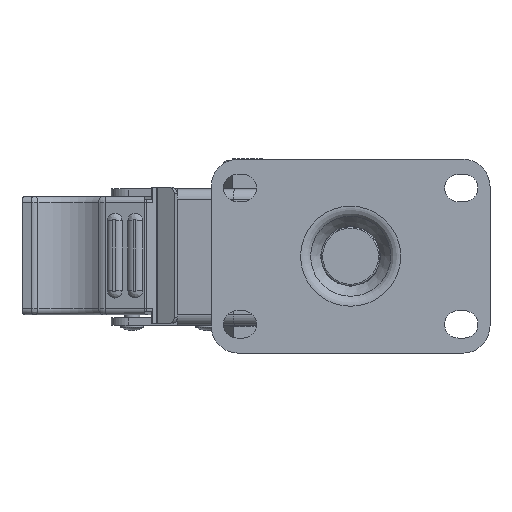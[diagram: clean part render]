
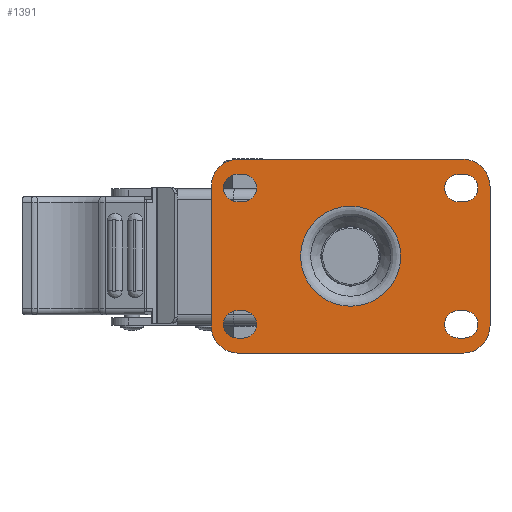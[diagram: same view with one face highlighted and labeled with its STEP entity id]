
A CAD part, top view. The second image highlights one B-rep face of the part: STEP entity #1391.
In plain terms, the highlighted planar face has unit normal (0, 0, 1).
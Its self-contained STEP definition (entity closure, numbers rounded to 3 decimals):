
#1391=ADVANCED_FACE('',(#3496,#3497,#3498,#3499,#3500,#3501),#2309,.F.);
#2309=PLANE('',#17312);
#3496=FACE_BOUND('',#3939,.T.);
#3497=FACE_BOUND('',#3940,.T.);
#3498=FACE_BOUND('',#3941,.T.);
#3499=FACE_BOUND('',#3942,.T.);
#3500=FACE_BOUND('',#3943,.T.);
#3501=FACE_BOUND('',#3944,.T.);
#3939=EDGE_LOOP('',(#7252));
#3940=EDGE_LOOP('',(#7253,#7254,#7255,#7256));
#3941=EDGE_LOOP('',(#7257,#7258,#7259,#7260));
#3942=EDGE_LOOP('',(#7261,#7262,#7263,#7264));
#3943=EDGE_LOOP('',(#7265,#7266,#7267,#7268));
#3944=EDGE_LOOP('',(#7269,#7270,#7271,#7272,#7273,#7274,#7275,#7276,#7277,
#7278));
#5109=LINE('',#25100,#6065);
#5110=LINE('',#25105,#6066);
#5111=LINE('',#25108,#6067);
#5112=LINE('',#25113,#6068);
#5113=LINE('',#25116,#6069);
#5114=LINE('',#25121,#6070);
#5115=LINE('',#25124,#6071);
#5116=LINE('',#25129,#6072);
#5117=LINE('',#25132,#6073);
#5118=LINE('',#25135,#6074);
#5119=LINE('',#25139,#6075);
#5120=LINE('',#25143,#6076);
#5121=LINE('',#25145,#6077);
#5122=LINE('',#25149,#6078);
#6065=VECTOR('',#19199,1.);
#6066=VECTOR('',#19202,1.);
#6067=VECTOR('',#19205,1.);
#6068=VECTOR('',#19208,1.);
#6069=VECTOR('',#19211,1.);
#6070=VECTOR('',#19214,1.);
#6071=VECTOR('',#19217,1.);
#6072=VECTOR('',#19220,1.);
#6073=VECTOR('',#19223,1.);
#6074=VECTOR('',#19224,1.);
#6075=VECTOR('',#19227,1.);
#6076=VECTOR('',#19230,1.);
#6077=VECTOR('',#19231,1.);
#6078=VECTOR('',#19234,1.);
#7252=ORIENTED_EDGE('',*,*,#14094,.T.);
#7253=ORIENTED_EDGE('',*,*,#14095,.F.);
#7254=ORIENTED_EDGE('',*,*,#14096,.F.);
#7255=ORIENTED_EDGE('',*,*,#14097,.F.);
#7256=ORIENTED_EDGE('',*,*,#14098,.F.);
#7257=ORIENTED_EDGE('',*,*,#14099,.F.);
#7258=ORIENTED_EDGE('',*,*,#14100,.F.);
#7259=ORIENTED_EDGE('',*,*,#14101,.F.);
#7260=ORIENTED_EDGE('',*,*,#14102,.F.);
#7261=ORIENTED_EDGE('',*,*,#14103,.F.);
#7262=ORIENTED_EDGE('',*,*,#14104,.F.);
#7263=ORIENTED_EDGE('',*,*,#14105,.F.);
#7264=ORIENTED_EDGE('',*,*,#14106,.F.);
#7265=ORIENTED_EDGE('',*,*,#14107,.F.);
#7266=ORIENTED_EDGE('',*,*,#14108,.F.);
#7267=ORIENTED_EDGE('',*,*,#14109,.F.);
#7268=ORIENTED_EDGE('',*,*,#14110,.F.);
#7269=ORIENTED_EDGE('',*,*,#14111,.T.);
#7270=ORIENTED_EDGE('',*,*,#14112,.T.);
#7271=ORIENTED_EDGE('',*,*,#14113,.T.);
#7272=ORIENTED_EDGE('',*,*,#14114,.T.);
#7273=ORIENTED_EDGE('',*,*,#14115,.T.);
#7274=ORIENTED_EDGE('',*,*,#14116,.T.);
#7275=ORIENTED_EDGE('',*,*,#14117,.T.);
#7276=ORIENTED_EDGE('',*,*,#14118,.T.);
#7277=ORIENTED_EDGE('',*,*,#14119,.T.);
#7278=ORIENTED_EDGE('',*,*,#14120,.T.);
#12349=VERTEX_POINT('',#25099);
#12350=VERTEX_POINT('',#25101);
#12351=VERTEX_POINT('',#25102);
#12352=VERTEX_POINT('',#25104);
#12353=VERTEX_POINT('',#25106);
#12354=VERTEX_POINT('',#25109);
#12355=VERTEX_POINT('',#25110);
#12356=VERTEX_POINT('',#25112);
#12357=VERTEX_POINT('',#25114);
#12358=VERTEX_POINT('',#25117);
#12359=VERTEX_POINT('',#25118);
#12360=VERTEX_POINT('',#25120);
#12361=VERTEX_POINT('',#25122);
#12362=VERTEX_POINT('',#25125);
#12363=VERTEX_POINT('',#25126);
#12364=VERTEX_POINT('',#25128);
#12365=VERTEX_POINT('',#25130);
#12366=VERTEX_POINT('',#25133);
#12367=VERTEX_POINT('',#25134);
#12368=VERTEX_POINT('',#25136);
#12369=VERTEX_POINT('',#25138);
#12370=VERTEX_POINT('',#25140);
#12371=VERTEX_POINT('',#25142);
#12372=VERTEX_POINT('',#25144);
#12373=VERTEX_POINT('',#25146);
#12374=VERTEX_POINT('',#25148);
#12375=VERTEX_POINT('',#25150);
#14094=EDGE_CURVE('',#12349,#12349,#16466,.T.);
#14095=EDGE_CURVE('',#12350,#12351,#5109,.T.);
#14096=EDGE_CURVE('',#12352,#12350,#16467,.T.);
#14097=EDGE_CURVE('',#12353,#12352,#5110,.T.);
#14098=EDGE_CURVE('',#12351,#12353,#16468,.T.);
#14099=EDGE_CURVE('',#12354,#12355,#5111,.T.);
#14100=EDGE_CURVE('',#12356,#12354,#16469,.T.);
#14101=EDGE_CURVE('',#12357,#12356,#5112,.T.);
#14102=EDGE_CURVE('',#12355,#12357,#16470,.T.);
#14103=EDGE_CURVE('',#12358,#12359,#5113,.T.);
#14104=EDGE_CURVE('',#12360,#12358,#16471,.T.);
#14105=EDGE_CURVE('',#12361,#12360,#5114,.T.);
#14106=EDGE_CURVE('',#12359,#12361,#16472,.T.);
#14107=EDGE_CURVE('',#12362,#12363,#5115,.T.);
#14108=EDGE_CURVE('',#12364,#12362,#16473,.T.);
#14109=EDGE_CURVE('',#12365,#12364,#5116,.T.);
#14110=EDGE_CURVE('',#12363,#12365,#16474,.T.);
#14111=EDGE_CURVE('',#12366,#12367,#5117,.T.);
#14112=EDGE_CURVE('',#12367,#12368,#5118,.T.);
#14113=EDGE_CURVE('',#12368,#12369,#16475,.T.);
#14114=EDGE_CURVE('',#12369,#12370,#5119,.T.);
#14115=EDGE_CURVE('',#12370,#12371,#16476,.T.);
#14116=EDGE_CURVE('',#12371,#12372,#5120,.T.);
#14117=EDGE_CURVE('',#12372,#12373,#5121,.T.);
#14118=EDGE_CURVE('',#12373,#12374,#16477,.T.);
#14119=EDGE_CURVE('',#12374,#12375,#5122,.T.);
#14120=EDGE_CURVE('',#12375,#12366,#16478,.T.);
#16466=CIRCLE('',#17299,16.522);
#16467=CIRCLE('',#17300,4.5);
#16468=CIRCLE('',#17301,4.5);
#16469=CIRCLE('',#17302,4.5);
#16470=CIRCLE('',#17303,4.5);
#16471=CIRCLE('',#17304,4.5);
#16472=CIRCLE('',#17305,4.5);
#16473=CIRCLE('',#17306,4.5);
#16474=CIRCLE('',#17307,4.5);
#16475=CIRCLE('',#17308,9.);
#16476=CIRCLE('',#17309,9.);
#16477=CIRCLE('',#17310,9.);
#16478=CIRCLE('',#17311,9.);
#17299=AXIS2_PLACEMENT_3D('',#25098,#19197,#19198);
#17300=AXIS2_PLACEMENT_3D('',#25103,#19200,#19201);
#17301=AXIS2_PLACEMENT_3D('',#25107,#19203,#19204);
#17302=AXIS2_PLACEMENT_3D('',#25111,#19206,#19207);
#17303=AXIS2_PLACEMENT_3D('',#25115,#19209,#19210);
#17304=AXIS2_PLACEMENT_3D('',#25119,#19212,#19213);
#17305=AXIS2_PLACEMENT_3D('',#25123,#19215,#19216);
#17306=AXIS2_PLACEMENT_3D('',#25127,#19218,#19219);
#17307=AXIS2_PLACEMENT_3D('',#25131,#19221,#19222);
#17308=AXIS2_PLACEMENT_3D('',#25137,#19225,#19226);
#17309=AXIS2_PLACEMENT_3D('',#25141,#19228,#19229);
#17310=AXIS2_PLACEMENT_3D('',#25147,#19232,#19233);
#17311=AXIS2_PLACEMENT_3D('',#25151,#19235,#19236);
#17312=AXIS2_PLACEMENT_3D('',#25152,#19237,#19238);
#19197=DIRECTION('',(0.,0.,-1.));
#19198=DIRECTION('',(-1.,0.,0.));
#19199=DIRECTION('',(1.,0.,0.));
#19200=DIRECTION('',(0.,0.,1.));
#19201=DIRECTION('',(1.,0.,0.));
#19202=DIRECTION('',(-1.,0.,0.));
#19203=DIRECTION('',(0.,0.,1.));
#19204=DIRECTION('',(1.,0.,0.));
#19205=DIRECTION('',(1.,0.,0.));
#19206=DIRECTION('',(0.,0.,1.));
#19207=DIRECTION('',(1.,0.,0.));
#19208=DIRECTION('',(-1.,0.,0.));
#19209=DIRECTION('',(0.,0.,1.));
#19210=DIRECTION('',(1.,0.,0.));
#19211=DIRECTION('',(1.,0.,0.));
#19212=DIRECTION('',(0.,0.,1.));
#19213=DIRECTION('',(1.,0.,0.));
#19214=DIRECTION('',(-1.,0.,0.));
#19215=DIRECTION('',(0.,0.,1.));
#19216=DIRECTION('',(1.,0.,0.));
#19217=DIRECTION('',(1.,0.,0.));
#19218=DIRECTION('',(0.,0.,1.));
#19219=DIRECTION('',(1.,0.,0.));
#19220=DIRECTION('',(-1.,0.,0.));
#19221=DIRECTION('',(0.,0.,1.));
#19222=DIRECTION('',(1.,0.,0.));
#19223=DIRECTION('',(-1.,0.,0.));
#19224=DIRECTION('',(-1.,0.,0.));
#19225=DIRECTION('',(0.,0.,1.));
#19226=DIRECTION('',(1.,0.,0.));
#19227=DIRECTION('',(0.,-1.,0.));
#19228=DIRECTION('',(0.,0.,1.));
#19229=DIRECTION('',(1.,0.,0.));
#19230=DIRECTION('',(1.,0.,0.));
#19231=DIRECTION('',(1.,0.,0.));
#19232=DIRECTION('',(0.,0.,1.));
#19233=DIRECTION('',(-1.,0.,0.));
#19234=DIRECTION('',(0.,1.,0.));
#19235=DIRECTION('',(0.,0.,1.));
#19236=DIRECTION('',(-1.,0.,0.));
#19237=DIRECTION('',(0.,0.,-1.));
#19238=DIRECTION('',(1.,0.,0.));
#25098=CARTESIAN_POINT('',(0.,0.,0.));
#25099=CARTESIAN_POINT('',(-16.522,0.,0.));
#25100=CARTESIAN_POINT('',(-37.5,18.,0.));
#25101=CARTESIAN_POINT('',(-37.5,18.,0.));
#25102=CARTESIAN_POINT('',(-35.5,18.,0.));
#25103=CARTESIAN_POINT('',(-37.5,22.5,0.));
#25104=CARTESIAN_POINT('',(-37.5,27.,0.));
#25105=CARTESIAN_POINT('',(-37.5,27.,0.));
#25106=CARTESIAN_POINT('',(-35.5,27.,0.));
#25107=CARTESIAN_POINT('',(-35.5,22.5,0.));
#25108=CARTESIAN_POINT('',(-37.5,-27.,0.));
#25109=CARTESIAN_POINT('',(-37.5,-27.,0.));
#25110=CARTESIAN_POINT('',(-35.5,-27.,0.));
#25111=CARTESIAN_POINT('',(-37.5,-22.5,0.));
#25112=CARTESIAN_POINT('',(-37.5,-18.,0.));
#25113=CARTESIAN_POINT('',(-37.5,-18.,0.));
#25114=CARTESIAN_POINT('',(-35.5,-18.,0.));
#25115=CARTESIAN_POINT('',(-35.5,-22.5,0.));
#25116=CARTESIAN_POINT('',(35.5,-27.,0.));
#25117=CARTESIAN_POINT('',(35.5,-27.,0.));
#25118=CARTESIAN_POINT('',(37.5,-27.,0.));
#25119=CARTESIAN_POINT('',(35.5,-22.5,0.));
#25120=CARTESIAN_POINT('',(35.5,-18.,0.));
#25121=CARTESIAN_POINT('',(35.5,-18.,0.));
#25122=CARTESIAN_POINT('',(37.5,-18.,0.));
#25123=CARTESIAN_POINT('',(37.5,-22.5,0.));
#25124=CARTESIAN_POINT('',(35.5,18.,0.));
#25125=CARTESIAN_POINT('',(35.5,18.,0.));
#25126=CARTESIAN_POINT('',(37.5,18.,0.));
#25127=CARTESIAN_POINT('',(35.5,22.5,0.));
#25128=CARTESIAN_POINT('',(35.5,27.,0.));
#25129=CARTESIAN_POINT('',(35.5,27.,0.));
#25130=CARTESIAN_POINT('',(37.5,27.,0.));
#25131=CARTESIAN_POINT('',(37.5,22.5,0.));
#25132=CARTESIAN_POINT('',(-37.,32.,0.));
#25133=CARTESIAN_POINT('',(37.,32.,0.));
#25134=CARTESIAN_POINT('',(0.,32.,0.));
#25135=CARTESIAN_POINT('',(-37.,32.,0.));
#25136=CARTESIAN_POINT('',(-37.,32.,0.));
#25137=CARTESIAN_POINT('',(-37.,23.,0.));
#25138=CARTESIAN_POINT('',(-46.,23.,0.));
#25139=CARTESIAN_POINT('',(-46.,23.,0.));
#25140=CARTESIAN_POINT('',(-46.,-23.,0.));
#25141=CARTESIAN_POINT('',(-37.,-23.,0.));
#25142=CARTESIAN_POINT('',(-37.,-32.,0.));
#25143=CARTESIAN_POINT('',(-37.,-32.,0.));
#25144=CARTESIAN_POINT('',(0.,-32.,0.));
#25145=CARTESIAN_POINT('',(-37.,-32.,0.));
#25146=CARTESIAN_POINT('',(37.,-32.,0.));
#25147=CARTESIAN_POINT('',(37.,-23.,0.));
#25148=CARTESIAN_POINT('',(46.,-23.,0.));
#25149=CARTESIAN_POINT('',(46.,23.,0.));
#25150=CARTESIAN_POINT('',(46.,23.,0.));
#25151=CARTESIAN_POINT('',(37.,23.,0.));
#25152=CARTESIAN_POINT('',(-32.,0.,0.));
